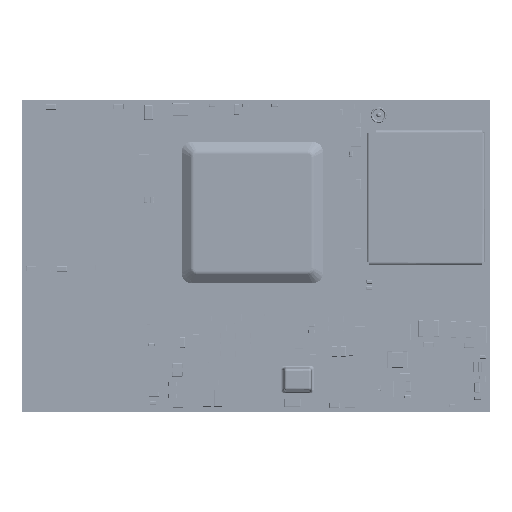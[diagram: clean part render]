
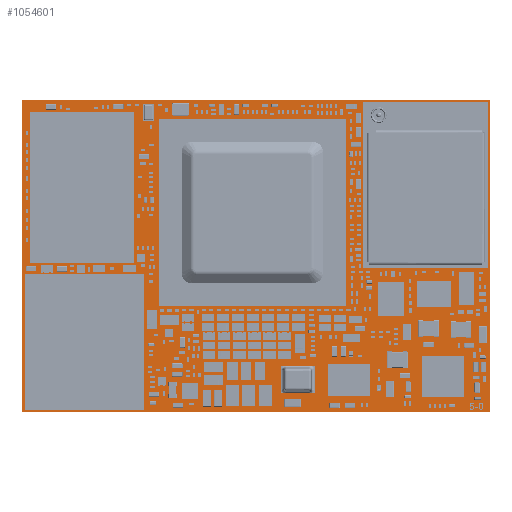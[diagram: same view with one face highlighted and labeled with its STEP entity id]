
A CAD part, top view. The second image highlights one B-rep face of the part: STEP entity #1054601.
In plain terms, the highlighted planar face has unit normal (0, 0, 1).
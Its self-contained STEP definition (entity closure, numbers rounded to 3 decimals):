
#25268 = DIRECTION ( 'NONE',  ( 0., 0., 1. ) ) ;
#67448 = ORIENTED_EDGE ( 'NONE', *, *, #92806, .T. ) ;
#89159 = CARTESIAN_POINT ( 'NONE',  ( 45., 30., 0. ) ) ;
#92806 = EDGE_CURVE ( 'NONE', #217201, #1270674, #1204505, .T. ) ;
#122777 = VERTEX_POINT ( 'NONE', #227020 ) ;
#217201 = VERTEX_POINT ( 'NONE', #1013595 ) ;
#227020 = CARTESIAN_POINT ( 'NONE',  ( 0., 0., 0. ) ) ;
#229606 = CARTESIAN_POINT ( 'NONE',  ( 45., 0., 0. ) ) ;
#269411 = ORIENTED_EDGE ( 'NONE', *, *, #850510, .T. ) ;
#313708 = EDGE_CURVE ( 'NONE', #648062, #122777, #510918, .T. ) ;
#320298 = EDGE_LOOP ( 'NONE', ( #937711, #67448, #269411, #985320 ) ) ;
#331423 = CARTESIAN_POINT ( 'NONE',  ( 22.5, 15., 0. ) ) ;
#397133 = CARTESIAN_POINT ( 'NONE',  ( 0., 30., 0. ) ) ;
#423484 = LINE ( 'NONE', #89159, #1210662 ) ;
#508495 = CARTESIAN_POINT ( 'NONE',  ( 45., 30., 0. ) ) ;
#509292 = DIRECTION ( 'NONE',  ( -1., 0., 0. ) ) ;
#510918 = LINE ( 'NONE', #397133, #1072201 ) ;
#648062 = VERTEX_POINT ( 'NONE', #887092 ) ;
#677893 = DIRECTION ( 'NONE',  ( 0., 1., 0. ) ) ;
#737608 = FACE_OUTER_BOUND ( 'NONE', #320298, .T. ) ;
#850510 = EDGE_CURVE ( 'NONE', #1270674, #648062, #423484, .T. ) ;
#859337 = LINE ( 'NONE', #1300165, #1353499 ) ;
#887092 = CARTESIAN_POINT ( 'NONE',  ( 0., 30., 0. ) ) ;
#937711 = ORIENTED_EDGE ( 'NONE', *, *, #991582, .T. ) ;
#978919 = DIRECTION ( 'NONE',  ( 1., 0., 0. ) ) ;
#985320 = ORIENTED_EDGE ( 'NONE', *, *, #313708, .T. ) ;
#991582 = EDGE_CURVE ( 'NONE', #122777, #217201, #859337, .T. ) ;
#1013595 = CARTESIAN_POINT ( 'NONE',  ( 45., 0., 0. ) ) ;
#1054601 = ADVANCED_FACE ( 'NONE', ( #737608 ), #1078709, .T. ) ;
#1072201 = VECTOR ( 'NONE', #1264928, 1000. ) ;
#1078709 = PLANE ( 'NONE',  #1403929 ) ;
#1204505 = LINE ( 'NONE', #229606, #1350622 ) ;
#1207670 = DIRECTION ( 'NONE',  ( 1., 0., 0. ) ) ;
#1210662 = VECTOR ( 'NONE', #509292, 1000. ) ;
#1264928 = DIRECTION ( 'NONE',  ( 0., -1., 0. ) ) ;
#1270674 = VERTEX_POINT ( 'NONE', #508495 ) ;
#1300165 = CARTESIAN_POINT ( 'NONE',  ( 0., 0., 0. ) ) ;
#1350622 = VECTOR ( 'NONE', #677893, 1000. ) ;
#1353499 = VECTOR ( 'NONE', #1207670, 1000. ) ;
#1403929 = AXIS2_PLACEMENT_3D ( 'NONE', #331423, #25268, #978919 ) ;
